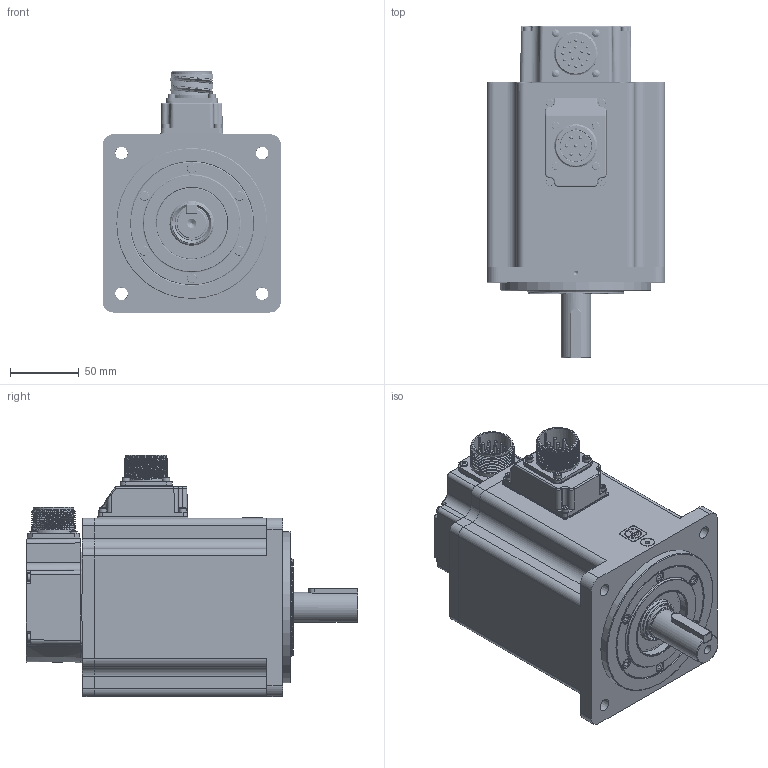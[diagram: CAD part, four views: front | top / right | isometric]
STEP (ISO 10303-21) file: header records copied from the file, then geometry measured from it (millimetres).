
FILE_DESCRIPTION( ( 'Unknown' ), '1' );
FILE_NAME( 'X:/05_Progetto TCE/010-TCE motor drawings/TCE130/Vuoti/TCE130 5H XX 3 A2 0 C3.stp', 'Unknown', ( 'Unknown' ), ( 'Unknown' ), 'PSStep 17.0.49', 'Unknown', ' ' );
FILE_SCHEMA( ( 'AUTOMOTIVE_DESIGN { 1 0 10303 214 1 1 1 1 }' ) );
Length unit declared in the file: millimetre
Products named in the file (50): back cover TCE100 + CN MIL; 003303000373; 003108015154; 005911000525; 005911000525-oa3; 005911000525-oa4; 005911000525-oa5; 001107000620; U5160003_vuoto; 005117001750; cap-M3 nudo; 003120002515; 003799000580; 003303000370; 005911000150; 005911000201; Assem1; 005123001528; 005123000600; 005204000002; 005204000001; 005911003623; 003155000301; 005911000430; 005113002005; 003103001509; 005119000340; 005204000003; 005008000302-oa0; 005008000842-oa1; 005008000690-oa2; 005911000493; 003251022006; 003003050020
Assembly tree (75 placements, depth 3):
  Assem1
    005123001528
    005123001528
    005123001528
    005123001528
    005123001528
    005123001528
    005123001528
    005123000600
    005123000600
    005123000600
    005123000600
    005123000600
    005123000600
    005123000600
    005204000002
    005204000001
    005911003623  x8
    003155000301
    005911000430  x10
    005113002005
    003103001509
    005119000340
    005119000340
    005204000003
    005008000302-oa0
    005008000842-oa1
    005008000690-oa2
    005911000493  x4
    003251022006
    003003050020
    back cover TCE100 + CN MIL
      003303000373
      003108015154
      005911000525
      005911000525-oa3
      005911000525-oa4
      005911000525-oa5
      001107000620
    U5160003_vuoto
      005117001750
      005117001750
      cap-M3 nudo
      003120002515
      003120002515
      003799000580
      003303000370
      003303000373
      005911000150
      005911000201  x8
Bounding box: 130.3 x 242 x 175.8 mm (x, y, z)
Volume: 1063631.2 mm3; surface area: 386765.4 mm2
Topology: 73 solids, 83 shells, 3011 faces, 7449 edges, 4797 vertices
Faces by surface type: plane 1528, cylinder 707, extrusion 233, cone 173, torus 154, bspline 144, sphere 72
Full cylindrical faces by diameter (mm): 2 x34, 2.224 x1, 2.4 x8, 2.459 x24, 2.5 x1, 2.6 x1, 2.8 x7, 2.9 x4, 3 x30, 3.048 x4, 3.2 x5, 3.242 x24, 3.5 x11, 3.6 x1, 3.7 x8, 3.8 x2, 4 x23, 4.134 x16, 4.5 x6, 4.7 x11, 5 x8, 5.1 x1, 5.5 x34, 5.6 x4, 5.8 x6, 6.647 x2, 7 x10, 8 x13, 8.5 x8, 10 x1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
Entity records: 119708 total; most frequent: CARTESIAN_POINT 40143, ORIENTED_EDGE 11532, DIRECTION 11358, EDGE_CURVE 5766, VERTEX_POINT 4074, AXIS2_PLACEMENT_3D 3976, EDGE_LOOP 3539, VECTOR 3406
